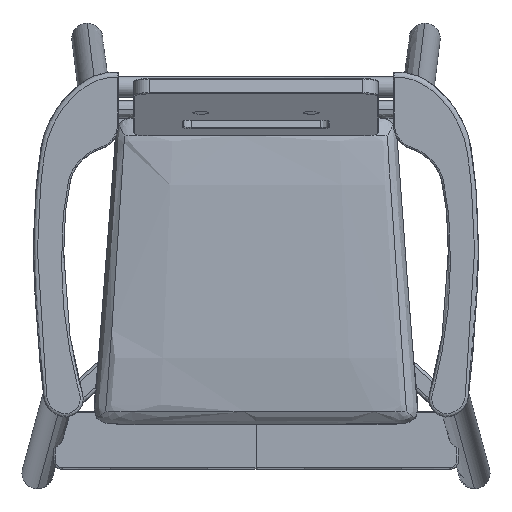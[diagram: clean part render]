
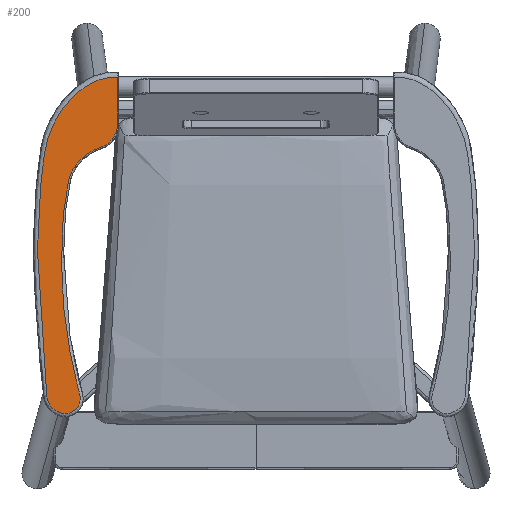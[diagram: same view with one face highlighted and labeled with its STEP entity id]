
A CAD part, top view. The second image highlights one B-rep face of the part: STEP entity #200.
In plain terms, the highlighted planar face has unit normal (0, 0, 1).
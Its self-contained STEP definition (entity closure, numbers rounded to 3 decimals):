
#200=ADVANCED_FACE('',(#443),#3307,.T.);
#443=FACE_OUTER_BOUND('',#697,.T.);
#697=EDGE_LOOP('',(#1484,#1485));
#1484=ORIENTED_EDGE('',*,*,#2218,.F.);
#1485=ORIENTED_EDGE('',*,*,#2213,.F.);
#2213=EDGE_CURVE('',#3155,#3156,#2860,.T.);
#2218=EDGE_CURVE('',#3156,#3155,#2865,.T.);
#2860=(
BOUNDED_CURVE()
B_SPLINE_CURVE(3,(#10680,#10681,#10682,#10683,#10684,#10685,#10686,#10687,
#10688,#10689,#10690,#10691,#10692,#10693,#10694,#10695,#10696,#10697,#10698,
#10699,#10700,#10701,#10702,#10703,#10704,#10705,#10706,#10707,#10708,#10709,
#10710,#10711,#10712,#10713,#10714,#10715,#10716,#10717,#10718,#10719,#10720,
#10721,#10722,#10723,#10724,#10725,#10726,#10727,#10728,#10729,#10730,#10731,
#10732,#10733,#10734,#10735,#10736,#10737,#10738,#10739,#10740,#10741,#10742,
#10743,#10744,#10745,#10746,#10747,#10748,#10749,#10750,#10751,#10752,#10753,
#10754,#10755,#10756,#10757,#10758,#10759,#10760,#10761,#10762,#10763,#10764,
#10765),.UNSPECIFIED.,.F.,.F.)
B_SPLINE_CURVE_WITH_KNOTS((4,1,1,1,1,1,1,1,1,1,1,1,1,1,1,1,1,1,1,1,1,1,
1,1,1,1,1,1,1,1,1,1,1,1,1,1,1,1,1,1,1,1,1,1,1,1,1,1,1,1,1,1,1,1,1,1,1,1,
1,1,1,1,1,1,1,1,1,1,1,1,1,1,1,1,1,1,1,1,1,1,1,1,1,4),(0.,
5.095,16.451,20.703,23.157,25.612,
31.511,37.019,47.836,54.098,60.36,
64.048,67.736,72.447,77.157,79.495,
81.832,87.588,93.343,120.898,133.206,
145.515,167.767,194.449,221.13,238.738,
256.345,261.239,266.134,268.415,270.697,
272.978,275.259,278.391,281.523,286.344,
289.463,290.94,292.416,298.604,301.636,
304.667,307.229,309.792,312.245,313.638,
315.031,316.611,318.19,321.649,325.908,
330.167,332.943,335.719,338.975,340.602,
342.23,348.953,355.676,369.122,377.222,
385.322,393.423,401.523,416.647,431.77,
456.294,481.463,503.31,525.156,551.454,
565.286,576.178,586.761,597.633,618.699,
625.015,631.33,638.744,646.159,654.857,
663.556,672.44,680.609),.UNSPECIFIED.)
CURVE()
GEOMETRIC_REPRESENTATION_ITEM()
RATIONAL_B_SPLINE_CURVE((1.,1.,1.,1.,1.,1.,1.,1.,1.,1.,
1.,1.,1.,1.,1.,1.,1.,1.,1.,1.,
1.,1.,1.,1.,1.,1.,1.,1.,1.,
1.,1.,1.,1.,1.,1.,1.,1.,1.,
1.,1.,1.,1.,1.,1.,1.,1.,1.,1.,1.,1.,1.,1.,
1.,1.,1.,1.,1.,1.,1.,1.,1.,
1.,1.,1.,1.,1.,1.,1.,1.,1.,1.,1.,
1.,1.,1.,1.,1.,1.,1.,1.,1.,1.,
1.,1.,1.,1.))
REPRESENTATION_ITEM('')
);
#2865=(
BOUNDED_CURVE()
B_SPLINE_CURVE(1,(#10775,#10776),.UNSPECIFIED.,.F.,.F.)
B_SPLINE_CURVE_WITH_KNOTS((2,2),(4.947,49.859),
 .UNSPECIFIED.)
CURVE()
GEOMETRIC_REPRESENTATION_ITEM()
RATIONAL_B_SPLINE_CURVE((1.,1.))
REPRESENTATION_ITEM('')
);
#3155=VERTEX_POINT('',#9448);
#3156=VERTEX_POINT('',#9449);
#3307=PLANE('',#3568);
#3568=AXIS2_PLACEMENT_3D('',#9311,#3621,$);
#3621=DIRECTION('',(0.,0.,1.));
#9311=CARTESIAN_POINT('',(-121.506,-185.808,629.912));
#9448=CARTESIAN_POINT('',(-133.021,136.548,629.912));
#9449=CARTESIAN_POINT('',(-132.781,181.459,629.912));
#10680=CARTESIAN_POINT('',(-133.021,136.548,629.912));
#10681=CARTESIAN_POINT('',(-133.03,134.855,629.912));
#10682=CARTESIAN_POINT('',(-133.646,129.359,629.912));
#10683=CARTESIAN_POINT('',(-136.822,123.028,629.912));
#10684=CARTESIAN_POINT('',(-141.058,118.716,629.912));
#10685=CARTESIAN_POINT('',(-143.55,116.934,629.912));
#10686=CARTESIAN_POINT('',(-146.727,115.229,629.912));
#10687=CARTESIAN_POINT('',(-151.074,113.615,629.912));
#10688=CARTESIAN_POINT('',(-157.893,110.746,629.912));
#10689=CARTESIAN_POINT('',(-164.278,106.631,629.912));
#10690=CARTESIAN_POINT('',(-169.906,101.244,629.912));
#10691=CARTESIAN_POINT('',(-173.347,97.06,629.912));
#10692=CARTESIAN_POINT('',(-175.793,93.222,629.912));
#10693=CARTESIAN_POINT('',(-177.623,89.628,629.912));
#10694=CARTESIAN_POINT('',(-179.168,85.532,629.912));
#10695=CARTESIAN_POINT('',(-180.229,81.758,629.912));
#10696=CARTESIAN_POINT('',(-180.938,78.71,629.912));
#10697=CARTESIAN_POINT('',(-181.651,75.307,629.912));
#10698=CARTESIAN_POINT('',(-182.492,70.768,629.912));
#10699=CARTESIAN_POINT('',(-184.531,57.904,629.912));
#10700=CARTESIAN_POINT('',(-185.825,42.737,629.912));
#10701=CARTESIAN_POINT('',(-186.499,25.361,629.912));
#10702=CARTESIAN_POINT('',(-186.838,9.741,629.912));
#10703=CARTESIAN_POINT('',(-186.722,-10.677,629.912));
#10704=CARTESIAN_POINT('',(-185.292,-35.852,629.912));
#10705=CARTESIAN_POINT('',(-182.557,-59.361,629.912));
#10706=CARTESIAN_POINT('',(-179.148,-79.713,629.912));
#10707=CARTESIAN_POINT('',(-176.538,-92.826,629.912));
#10708=CARTESIAN_POINT('',(-174.667,-101.764,629.912));
#10709=CARTESIAN_POINT('',(-173.776,-105.688,629.912));
#10710=CARTESIAN_POINT('',(-173.029,-108.75,629.912));
#10711=CARTESIAN_POINT('',(-172.456,-110.959,629.912));
#10712=CARTESIAN_POINT('',(-171.853,-113.159,629.912));
#10713=CARTESIAN_POINT('',(-171.128,-115.619,629.912));
#10714=CARTESIAN_POINT('',(-170.303,-118.345,629.912));
#10715=CARTESIAN_POINT('',(-169.356,-121.918,629.912));
#10716=CARTESIAN_POINT('',(-168.747,-125.569,629.912));
#10717=CARTESIAN_POINT('',(-168.843,-128.724,629.912));
#10718=CARTESIAN_POINT('',(-169.214,-130.715,629.912));
#10719=CARTESIAN_POINT('',(-170.126,-133.631,629.912));
#10720=CARTESIAN_POINT('',(-172.122,-136.681,629.912));
#10721=CARTESIAN_POINT('',(-175.308,-139.269,629.912));
#10722=CARTESIAN_POINT('',(-177.89,-140.573,629.912));
#10723=CARTESIAN_POINT('',(-180.516,-141.312,629.912));
#10724=CARTESIAN_POINT('',(-183.039,-141.568,629.912));
#10725=CARTESIAN_POINT('',(-185.178,-141.39,629.912));
#10726=CARTESIAN_POINT('',(-186.88,-140.987,629.912));
#10727=CARTESIAN_POINT('',(-188.264,-140.535,629.912));
#10728=CARTESIAN_POINT('',(-189.664,-139.948,629.912));
#10729=CARTESIAN_POINT('',(-191.637,-138.958,629.912));
#10730=CARTESIAN_POINT('',(-194.234,-137.246,629.912));
#10731=CARTESIAN_POINT('',(-197.078,-134.405,629.912));
#10732=CARTESIAN_POINT('',(-199.074,-131.182,629.912));
#10733=CARTESIAN_POINT('',(-200.222,-128.11,629.912));
#10734=CARTESIAN_POINT('',(-200.857,-125.238,629.912));
#10735=CARTESIAN_POINT('',(-201.197,-122.707,629.912));
#10736=CARTESIAN_POINT('',(-201.412,-120.547,629.912));
#10737=CARTESIAN_POINT('',(-201.71,-117.235,629.912));
#10738=CARTESIAN_POINT('',(-202.204,-112.234,629.912));
#10739=CARTESIAN_POINT('',(-203.173,-103.323,629.912));
#10740=CARTESIAN_POINT('',(-204.207,-93.957,629.912));
#10741=CARTESIAN_POINT('',(-205.123,-84.117,629.912));
#10742=CARTESIAN_POINT('',(-205.812,-76.046,629.912));
#10743=CARTESIAN_POINT('',(-206.428,-67.97,629.912));
#10744=CARTESIAN_POINT('',(-207.152,-57.554,629.912));
#10745=CARTESIAN_POINT('',(-207.922,-44.794,629.912));
#10746=CARTESIAN_POINT('',(-208.885,-26.563,629.912));
#10747=CARTESIAN_POINT('',(-209.795,-4.975,629.912));
#10748=CARTESIAN_POINT('',(-210.006,18.874,629.912));
#10749=CARTESIAN_POINT('',(-209.335,41.822,629.912));
#10750=CARTESIAN_POINT('',(-208.015,65.116,629.912));
#10751=CARTESIAN_POINT('',(-206.201,85.698,629.912));
#10752=CARTESIAN_POINT('',(-204.069,102.574,629.912));
#10753=CARTESIAN_POINT('',(-202.257,114.204,629.912));
#10754=CARTESIAN_POINT('',(-199.708,124.702,629.912));
#10755=CARTESIAN_POINT('',(-194.477,137.91,629.912));
#10756=CARTESIAN_POINT('',(-187.794,148.853,629.912));
#10757=CARTESIAN_POINT('',(-180.726,157.588,629.912));
#10758=CARTESIAN_POINT('',(-176.218,162.524,629.912));
#10759=CARTESIAN_POINT('',(-171.084,167.363,629.912));
#10760=CARTESIAN_POINT('',(-164.889,172.188,629.912));
#10761=CARTESIAN_POINT('',(-157.795,176.474,629.912));
#10762=CARTESIAN_POINT('',(-149.665,179.83,629.912));
#10763=CARTESIAN_POINT('',(-141.199,181.492,629.912));
#10764=CARTESIAN_POINT('',(-135.5,181.606,629.912));
#10765=CARTESIAN_POINT('',(-132.781,181.459,629.912));
#10775=CARTESIAN_POINT('',(-132.781,181.459,629.912));
#10776=CARTESIAN_POINT('',(-133.021,136.548,629.912));
